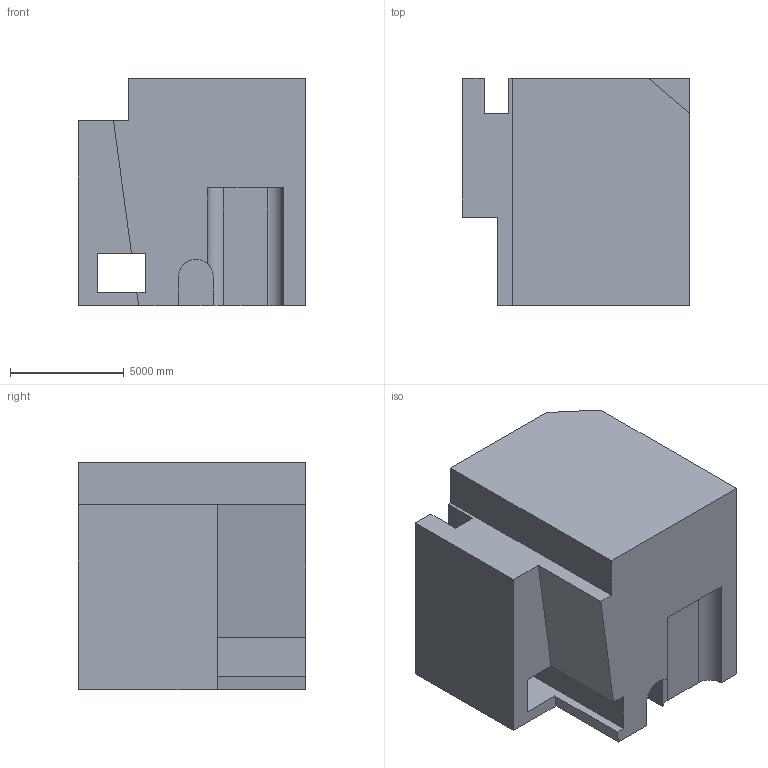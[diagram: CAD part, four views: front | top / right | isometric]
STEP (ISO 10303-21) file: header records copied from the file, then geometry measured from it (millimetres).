
FILE_DESCRIPTION (( 'STEP AP203' ), '1' );
FILE_NAME ('1714.STEP', '2022-08-19T11:59:32', ( 'user' ), ( '' ), 'SwSTEP 2.0', 'SolidWorks 2021', '' );
FILE_SCHEMA (( 'CONFIG_CONTROL_DESIGN' ));
Length unit declared in the file: centimetre
Products named in the file (1): 1714
Bounding box: 10000 x 10000 x 10000 mm (x, y, z)
Volume: 817661315359 mm3; surface area: 680043164 mm2
Topology: 1 solids, 1 shells, 36 faces, 105 edges, 70 vertices
Faces by surface type: plane 33, cylinder 3
Entity records: 1313 total; most frequent: CARTESIAN_POINT 271, ORIENTED_EDGE 210, DIRECTION 184, EDGE_CURVE 105, VECTOR 98, LINE 98, VERTEX_POINT 70, AXIS2_PLACEMENT_3D 43
